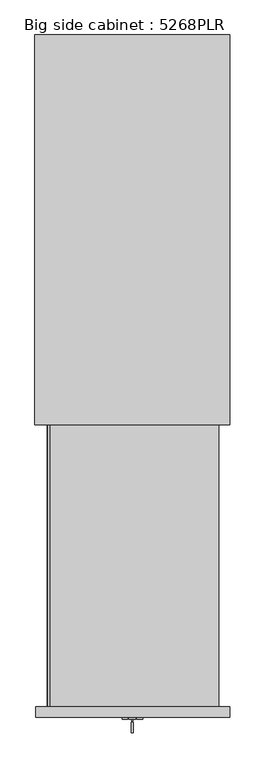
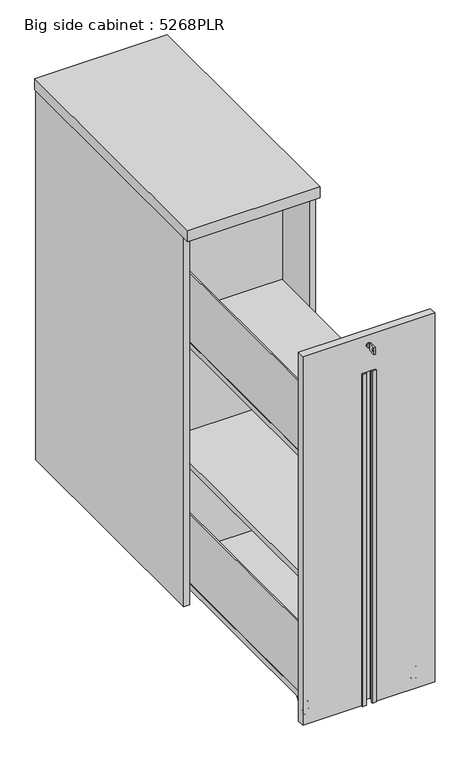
"""IFC4 building model written with IfcOpenShell, lengths in millimetres: furniture geometry, Big side cabinet : 5268PLR."""

from ifc_helpers import new_model, si_unit, point, frame, frame_2d, origin, origin_with_axes, place, context, project, spatial, polyline, circle_curve, ellipse_curve, trimmed, segment, composite_curve, outline, extrude, source, transform, mapped, element, save
from ifc_brep_helpers import plane_surface, cylinder_surface, revolved_surface, advanced_brep


def big_side_cabinet_5268plr_7d59c94c(model_context):
    return source(origin(), model_context, "Body", "SolidModel", [
        extrude(outline(polyline([(1.5783188, 20.1617145), (1.5783188, 10.1617145), (-8.4216812, 10.1617145), (-8.4216812, 20.1617145), (1.5783188, 20.1617145)])), origin_with_axes(), (0.0, 0.0, 1.0), 10.0),
        extrude(outline(polyline([(180.5000002, 798.0), (198.5, 798.0), (198.5, 22.9999769), (180.5000002, 22.9999769), (180.5000002, 798.0)])), frame((0.0, 0.0, 5.0), z_axis=(0.0, 0.0, 1.0), x_axis=(1.0, 0.0, 0.0)), (0.0, 0.0, 1.0), 1180.0),
        extrude(outline(polyline([(-180.5000002, 778.4999997), (-180.5000002, 790.9999997), (180.5000002, 790.9999997), (180.5000002, 778.4999997), (-180.5000002, 778.4999997)])), frame((0.0, 0.0, 5.0), z_axis=(0.0, 0.0, 1.0), x_axis=(1.0, 0.0, 0.0)), (0.0, 0.0, 1.0), 1180.0),
        extrude(outline(polyline([(-180.5000002, 798.0), (-180.5000002, 22.9999769), (-198.5, 22.9999769), (-198.5, 798.0), (-180.5000002, 798.0)])), frame((0.0, 0.0, 5.0), z_axis=(0.0, 0.0, 1.0), x_axis=(1.0, 0.0, 0.0)), (0.0, 0.0, 1.0), 1180.0),
        extrude(outline(polyline([(180.5000002, 70.0000151), (-180.5000002, 70.0000151), (-180.5000002, 738.5000021), (180.5000002, 738.5000021), (180.5000002, 70.0000151)])), frame((0.0, 0.0, 20.0583505), z_axis=(0.0, 0.0, 1.0), x_axis=(1.0, 0.0, 0.0)), (0.0, 0.0, 1.0), 17.9999982),
        extrude(outline(polyline([(200.0, 0.0), (-200.0, 0.0), (-200.0, 800.0), (200.0, 800.0), (200.0, 0.0)])), frame((0.0, 0.0, 1185.0), z_axis=(0.0, 0.0, 1.0), x_axis=(1.0, 0.0, 0.0)), (0.0, 0.0, 1.0), 35.0),
        extrude(outline(composite_curve([segment(trimmed(circle_curve(frame_2d((-160.5000002, 706.0000021)), 20.0), [point((-180.5000002, 706.0000021))], [point((-140.5000002, 706.0000021))], False, "CARTESIAN"), True, "CONTINUOUS"), segment(trimmed(circle_curve(frame_2d((-160.5000002, 706.0000021)), 20.0), [point((-140.5000002, 706.0000021))], [point((-180.5000002, 706.0000021))], False, "CARTESIAN"), True, "CONTINUOUS")], self_intersect=False)), origin_with_axes(), (0.0, 0.0, 1.0), 19.0539492),
        extrude(outline(composite_curve([segment(trimmed(circle_curve(frame_2d((-160.5000002, 98.9999918)), 20.0), [point((-180.5000002, 98.9999918))], [point((-140.5000002, 98.9999918))], False, "CARTESIAN"), True, "CONTINUOUS"), segment(trimmed(circle_curve(frame_2d((-160.5000002, 98.9999918)), 20.0), [point((-140.5000002, 98.9999918))], [point((-180.5000002, 98.9999918))], False, "CARTESIAN"), True, "CONTINUOUS")], self_intersect=False)), origin_with_axes(), (0.0, 0.0, 1.0), 19.0539492),
        extrude(outline(composite_curve([segment(trimmed(circle_curve(frame_2d((160.5000002, 706.0000021)), 20.0), [point((140.5000002, 706.0000021))], [point((180.5000002, 706.0000021))], False, "CARTESIAN"), True, "CONTINUOUS"), segment(trimmed(circle_curve(frame_2d((160.5000002, 706.0000021)), 20.0), [point((180.5000002, 706.0000021))], [point((140.5000002, 706.0000021))], False, "CARTESIAN"), True, "CONTINUOUS")], self_intersect=False)), origin_with_axes(), (0.0, 0.0, 1.0), 19.0539492),
        extrude(outline(composite_curve([segment(trimmed(circle_curve(frame_2d((160.5000002, 98.9999918)), 20.0), [point((140.5000002, 98.9999918))], [point((180.5000002, 98.9999918))], False, "CARTESIAN"), True, "CONTINUOUS"), segment(trimmed(circle_curve(frame_2d((160.5000002, 98.9999918)), 20.0), [point((180.5000002, 98.9999918))], [point((140.5000002, 98.9999918))], False, "CARTESIAN"), True, "CONTINUOUS")], self_intersect=False)), origin_with_axes(), (0.0, 0.0, 1.0), 19.0539492),
        advanced_brep(
        [(155.997354, -548.0000393, 10.5), (158.25, -548.0000393, 12.752646), (158.25, -548.0000393, 29.247354), (155.997354, -548.0000393, 31.5), (155.997354, -548.0000393, 3.0456405), (155.997354, -548.0000393, 38.9543595), (159.0429945, -548.0000393, 0.0), (159.0429945, -548.0000393, 42.0), (162.5, -548.0000393, 0.0), (162.5, -548.0000393, 42.0), (162.5, -548.0000393, 16.75), (162.5, -548.0000393, 25.25), (158.25, -548.0000393, 16.75), (158.25, -548.0000393, 25.25)],
        [
            (0, 1),
            (1, 2, circle_curve(frame((158.25, -548.0000393, 21.0), z_axis=(1.0, 0.0, 0.0), x_axis=(0.0, 0.0, 1.0)), 8.247354)),
            (2, 3),
            (3, 0, circle_curve(frame((155.997354, -548.0000393, 21.0), z_axis=(-1.0, 0.0, 0.0), x_axis=(0.0, 0.0, 1.0)), 10.5)),
            (2, 1, circle_curve(frame((158.25, -548.0000393, 21.0), z_axis=(1.0, 0.0, 0.0), x_axis=(0.0, 0.0, 1.0)), 8.247354)),
            (0, 3, circle_curve(frame((155.997354, -548.0000393, 21.0), z_axis=(-1.0, 0.0, 0.0), x_axis=(0.0, 0.0, 1.0)), 10.5)),
            (4, 0),
            (3, 5),
            (5, 4, circle_curve(frame((155.997354, -548.0000393, 21.0), z_axis=(-1.0, 0.0, 0.0), x_axis=(0.0, 0.0, 1.0)), 17.9543595)),
            (4, 5, circle_curve(frame((155.997354, -548.0000393, 21.0), z_axis=(-1.0, 0.0, 0.0), x_axis=(0.0, 0.0, 1.0)), 17.9543595)),
            (6, 4, circle_curve(frame((159.0429945, -548.0000393, 3.0456405), z_axis=(0.0, 1.0, 0.0), x_axis=(-1.0, 0.0, 0.0)), 3.0456405)),
            (5, 7, circle_curve(frame((159.0429945, -548.0000393, 38.9543595), z_axis=(0.0, 1.0, 0.0), x_axis=(-1.0, 0.0, 0.0)), 3.0456405)),
            (7, 6, circle_curve(frame((159.0429945, -548.0000393, 21.0), z_axis=(-1.0, 0.0, 0.0), x_axis=(0.0, 0.0, 1.0)), 21.0)),
            (6, 7, circle_curve(frame((159.0429945, -548.0000393, 21.0), z_axis=(-1.0, 0.0, 0.0), x_axis=(0.0, 0.0, 1.0)), 21.0)),
            (8, 6),
            (7, 9),
            (9, 8, circle_curve(frame((162.5, -548.0000393, 21.0), z_axis=(-1.0, 0.0, 0.0), x_axis=(0.0, 0.0, 1.0)), 21.0)),
            (8, 9, circle_curve(frame((162.5, -548.0000393, 21.0), z_axis=(-1.0, 0.0, 0.0), x_axis=(0.0, 0.0, 1.0)), 21.0)),
            (10, 8),
            (9, 11),
            (11, 10, circle_curve(frame((162.5, -548.0000393, 21.0), z_axis=(-1.0, 0.0, 0.0), x_axis=(0.0, 0.0, 1.0)), 4.25)),
            (10, 11, circle_curve(frame((162.5, -548.0000393, 21.0), z_axis=(-1.0, 0.0, 0.0), x_axis=(0.0, 0.0, 1.0)), 4.25)),
            (12, 10),
            (11, 13),
            (13, 12, circle_curve(frame((158.25, -548.0000393, 21.0), z_axis=(-1.0, 0.0, 0.0), x_axis=(0.0, 0.0, 1.0)), 4.25)),
            (12, 13, circle_curve(frame((158.25, -548.0000393, 21.0), z_axis=(-1.0, 0.0, 0.0), x_axis=(0.0, 0.0, 1.0)), 4.25)),
            (1, 12),
            (13, 2),
        ],
        [
            revolved_surface(polyline([(158.25, -548.0000393, 29.247354), (155.997354, -548.0000393, 31.5)]), (135.5019942, -548.0000393, 21.0), (1.0, 0.0, 0.0)),
            plane_surface(frame((155.997354, -548.0000393, 21.0), z_axis=(-1.0, 0.0, 0.0), x_axis=(0.0, 0.0, 1.0))),
            revolved_surface(trimmed(ellipse_curve(frame((159.0429945, -548.0000393, 38.9543595), z_axis=(0.0, 1.0, 0.0), x_axis=(-1.0, 0.0, 0.0)), 3.0456405, 3.0456405), [point((155.997354, -548.0000393, 38.9543595))], [point((159.0429945, -548.0000393, 42.0))], True, "CARTESIAN"), (135.5019942, -548.0000393, 21.0), (1.0, 0.0, 0.0)),
            cylinder_surface(frame((135.5019942, -548.0000393, 21.0), z_axis=(1.0, 0.0, 0.0), x_axis=(0.0, 0.0, 1.0)), 21.0),
            plane_surface(frame((162.5, -548.0000393, 21.0), z_axis=(1.0, 0.0, 0.0), x_axis=(0.0, 0.0, 1.0))),
            revolved_surface(polyline([(162.5, -548.0000393, 25.25), (158.25, -548.0000393, 25.25)]), (135.5019942, -548.0000393, 21.0), (1.0, 0.0, 0.0)),
            plane_surface(frame((158.25, -548.0000393, 21.0), z_axis=(-1.0, 0.0, 0.0), x_axis=(0.0, 0.0, 1.0))),
        ],
        [
            (0, [[1, 2, 3, 4]]),
            (0, [[-3, 5, -1, 6]]),
            (1, [[7, -4, 8, 9]]),
            (1, [[-8, -6, -7, 10]]),
            (2, [[11, -9, 12, 13]]),
            (2, [[-12, -10, -11, 14]]),
            (3, [[15, -13, 16, 17]]),
            (3, [[-16, -14, -15, 18]]),
            (4, [[19, -17, 20, 21]]),
            (4, [[-20, -18, -19, 22]]),
            (5, [[23, -21, 24, 25]]),
            (5, [[-24, -22, -23, 26]]),
            (6, [[27, -25, 28, -2]]),
            (6, [[-28, -26, -27, -5]]),
        ],
    ),
        advanced_brep(
        [(174.351441, -548.0000393, 25.0), (174.351441, -548.0000393, 21.0), (174.351441, -548.0000393, 17.0), (169.8769483, -548.0000393, 17.0), (169.8769483, -548.0000393, 25.0)],
        [
            (0, 1),
            (1, 2),
            (2, 0, circle_curve(frame((174.351441, -548.0000393, 21.0), z_axis=(1.0, 0.0, 0.0), x_axis=(0.0, 0.0, -1.0)), 4.0)),
            (0, 2, circle_curve(frame((174.351441, -548.0000393, 21.0), z_axis=(1.0, 0.0, 0.0), x_axis=(0.0, 0.0, -1.0)), 4.0)),
            (2, 3),
            (3, 4, circle_curve(frame((169.8769483, -548.0000393, 21.0), z_axis=(1.0, 0.0, 0.0), x_axis=(0.0, 0.0, -1.0)), 4.0)),
            (4, 0),
            (4, 3, circle_curve(frame((169.8769483, -548.0000393, 21.0), z_axis=(1.0, 0.0, 0.0), x_axis=(0.0, 0.0, -1.0)), 4.0)),
        ],
        [
            plane_surface(frame((174.351441, -548.0000393, 21.0), z_axis=(1.0, 0.0, 0.0), x_axis=(0.0, 0.0, -1.0))),
            cylinder_surface(frame((142.5, -548.0000393, 21.0), z_axis=(-1.0, 0.0, 0.0), x_axis=(0.0, 0.0, -1.0)), 4.0),
            plane_surface(frame((169.8769483, -572.0000393, 46.0), z_axis=(-1.0, 0.0, 0.0), x_axis=(0.0, 1.0, 0.0))),
        ],
        [
            (0, [[1, 2, 3]]),
            (0, [[-1, 4, -2]]),
            (1, [[5, 6, 7, -3]]),
            (1, [[-7, 8, -5, -4]]),
            (2, [[-8, -6]]),
        ],
    ),
        advanced_brep(
        [(150.5708052, -548.0000393, 25.0), (155.0, -548.0000393, 25.0), (155.0, -548.0000393, 17.0), (150.5708052, -548.0000393, 17.0), (150.5708052, -548.0000393, 21.0)],
        [
            (0, 1),
            (1, 2, circle_curve(frame((155.0, -548.0000393, 21.0), z_axis=(-1.0, 0.0, 0.0), x_axis=(0.0, 0.0, -1.0)), 4.0)),
            (2, 3),
            (3, 0, circle_curve(frame((150.5708052, -548.0000393, 21.0), z_axis=(1.0, 0.0, 0.0), x_axis=(0.0, 0.0, -1.0)), 4.0)),
            (2, 1, circle_curve(frame((155.0, -548.0000393, 21.0), z_axis=(-1.0, 0.0, 0.0), x_axis=(0.0, 0.0, -1.0)), 4.0)),
            (0, 3, circle_curve(frame((150.5708052, -548.0000393, 21.0), z_axis=(1.0, 0.0, 0.0), x_axis=(0.0, 0.0, -1.0)), 4.0)),
            (3, 4),
            (4, 0),
        ],
        [
            cylinder_surface(frame((142.5, -548.0000393, 21.0), z_axis=(-1.0, 0.0, 0.0), x_axis=(0.0, 0.0, -1.0)), 4.0),
            plane_surface(frame((150.5708052, -548.0000393, 21.0), z_axis=(-1.0, 0.0, 0.0), x_axis=(0.0, 0.0, -1.0))),
            plane_surface(frame((155.0, -572.0000393, 0.0), z_axis=(1.0, 0.0, 0.0), x_axis=(0.0, 1.0, 0.0))),
        ],
        [
            (0, [[1, 2, 3, 4]]),
            (0, [[-3, 5, -1, 6]]),
            (1, [[7, 8, -4]]),
            (1, [[-8, -7, -6]]),
            (2, [[-5, -2]]),
        ],
    ),
        advanced_brep(
        [(166.75, -548.0000393, 12.752646), (169.002646, -548.0000393, 10.5), (169.002646, -548.0000393, 31.5), (166.75, -548.0000393, 29.247354), (169.002646, -548.0000393, 3.0456405), (169.002646, -548.0000393, 38.9543595), (165.9570055, -548.0000393, 0.0), (165.9570055, -548.0000393, 42.0), (162.5, -548.0000393, 0.0), (162.5, -548.0000393, 42.0), (162.5, -548.0000393, 21.0), (166.75, -548.0000393, 21.0)],
        [
            (0, 1),
            (1, 2, circle_curve(frame((169.002646, -548.0000393, 21.0), z_axis=(1.0, 0.0, 0.0), x_axis=(0.0, 0.0, 1.0)), 10.5)),
            (2, 3),
            (3, 0, circle_curve(frame((166.75, -548.0000393, 21.0), z_axis=(-1.0, 0.0, 0.0), x_axis=(0.0, 0.0, 1.0)), 8.247354)),
            (2, 1, circle_curve(frame((169.002646, -548.0000393, 21.0), z_axis=(1.0, 0.0, 0.0), x_axis=(0.0, 0.0, 1.0)), 10.5)),
            (0, 3, circle_curve(frame((166.75, -548.0000393, 21.0), z_axis=(-1.0, 0.0, 0.0), x_axis=(0.0, 0.0, 1.0)), 8.247354)),
            (1, 4),
            (4, 5, circle_curve(frame((169.002646, -548.0000393, 21.0), z_axis=(1.0, 0.0, 0.0), x_axis=(0.0, 0.0, 1.0)), 17.9543595)),
            (5, 2),
            (5, 4, circle_curve(frame((169.002646, -548.0000393, 21.0), z_axis=(1.0, 0.0, 0.0), x_axis=(0.0, 0.0, 1.0)), 17.9543595)),
            (4, 6, circle_curve(frame((165.9570055, -548.0000393, 3.0456405), z_axis=(0.0, 1.0, 0.0), x_axis=(1.0, 0.0, 0.0)), 3.0456405)),
            (6, 7, circle_curve(frame((165.9570055, -548.0000393, 21.0), z_axis=(1.0, 0.0, 0.0), x_axis=(0.0, 0.0, 1.0)), 21.0)),
            (7, 5, circle_curve(frame((165.9570055, -548.0000393, 38.9543595), z_axis=(0.0, 1.0, 0.0), x_axis=(1.0, 0.0, 0.0)), 3.0456405)),
            (7, 6, circle_curve(frame((165.9570055, -548.0000393, 21.0), z_axis=(1.0, 0.0, 0.0), x_axis=(0.0, 0.0, 1.0)), 21.0)),
            (6, 8),
            (8, 9, circle_curve(frame((162.5, -548.0000393, 21.0), z_axis=(1.0, 0.0, 0.0), x_axis=(0.0, 0.0, 1.0)), 21.0)),
            (9, 7),
            (9, 8, circle_curve(frame((162.5, -548.0000393, 21.0), z_axis=(1.0, 0.0, 0.0), x_axis=(0.0, 0.0, 1.0)), 21.0)),
            (8, 10),
            (10, 9),
            (11, 0),
            (3, 11),
        ],
        [
            revolved_surface(polyline([(169.002646, -548.0000393, 31.5), (166.75, -548.0000393, 29.247354)]), (189.4980058, -548.0000393, 21.0), (1.0, 0.0, 0.0)),
            plane_surface(frame((169.002646, -548.0000393, 21.0), z_axis=(1.0, 0.0, 0.0), x_axis=(0.0, 0.0, 1.0))),
            revolved_surface(trimmed(ellipse_curve(frame((165.9570055, -548.0000393, 38.9543595), z_axis=(0.0, 1.0, 0.0), x_axis=(1.0, 0.0, 0.0)), 3.0456405, 3.0456405), [point((165.9570055, -548.0000393, 42.0))], [point((169.002646, -548.0000393, 38.9543595))], True, "CARTESIAN"), (189.4980058, -548.0000393, 21.0), (1.0, 0.0, 0.0)),
            cylinder_surface(frame((189.4980058, -548.0000393, 21.0), z_axis=(1.0, 0.0, 0.0), x_axis=(0.0, 0.0, 1.0)), 21.0),
            plane_surface(frame((162.5, -548.0000393, 21.0), z_axis=(-1.0, 0.0, 0.0), x_axis=(0.0, 0.0, 1.0))),
            plane_surface(frame((166.75, -548.0000393, 21.0), z_axis=(1.0, 0.0, 0.0), x_axis=(0.0, 0.0, 1.0))),
        ],
        [
            (0, [[1, 2, 3, 4]]),
            (0, [[-3, 5, -1, 6]]),
            (1, [[7, 8, 9, -2]]),
            (1, [[-9, 10, -7, -5]]),
            (2, [[11, 12, 13, -8]]),
            (2, [[-13, 14, -11, -10]]),
            (3, [[15, 16, 17, -12]]),
            (3, [[-17, 18, -15, -14]]),
            (4, [[19, 20, -16]]),
            (4, [[-20, -19, -18]]),
            (5, [[21, -4, 22]]),
            (5, [[-22, -6, -21]]),
        ],
    ),
        advanced_brep(
        [(152.5, -524.0000393, 48.0), (152.5, -524.0000393, 42.0), (152.5, -540.0000393, 21.0), (152.5, -556.0000393, 21.0), (152.5, -572.0000393, 42.0), (152.5, -572.0000393, 48.0), (172.5, -524.0000393, 48.0), (172.5, -572.0000393, 48.0), (172.5, -572.0000393, 42.0), (172.5, -556.0000393, 21.0), (172.5, -540.0000393, 21.0), (172.5, -524.0000393, 42.0), (169.8769483, -556.0000393, 21.0), (169.8769483, -540.0000393, 21.0), (155.0, -540.0000393, 21.0), (155.0, -556.0000393, 21.0), (155.0, -572.0000393, 42.0), (155.0, -572.0000393, 46.0), (169.8769483, -572.0000393, 46.0), (169.8769483, -572.0000393, 42.0), (169.8769483, -524.0000393, 42.0), (169.8769483, -524.0000393, 46.0), (155.0, -524.0000393, 46.0), (155.0, -524.0000393, 42.0)],
        [
            (0, 1),
            (1, 2),
            (2, 3, circle_curve(frame((152.5, -548.0000393, 21.0), z_axis=(-1.0, 0.0, 0.0), x_axis=(0.0, -1.0, 0.0)), 8.0)),
            (3, 4),
            (4, 5),
            (5, 0),
            (6, 7),
            (7, 8),
            (8, 9),
            (9, 10, circle_curve(frame((172.5, -548.0000393, 21.0), z_axis=(1.0, 0.0, 0.0), x_axis=(0.0, -1.0, 0.0)), 8.0)),
            (10, 11),
            (11, 6),
            (5, 7),
            (6, 0),
            (9, 12),
            (12, 13, circle_curve(frame((169.8769483, -548.0000393, 21.0), z_axis=(1.0, 0.0, 0.0), x_axis=(0.0, -1.0, 0.0)), 8.0)),
            (13, 10),
            (2, 14),
            (14, 15, circle_curve(frame((155.0, -548.0000393, 21.0), z_axis=(-1.0, 0.0, 0.0), x_axis=(0.0, -1.0, 0.0)), 8.0)),
            (15, 3),
            (4, 16),
            (16, 17),
            (17, 18),
            (18, 19),
            (19, 8),
            (11, 20),
            (20, 21),
            (21, 22),
            (22, 23),
            (23, 1),
            (17, 22),
            (21, 18),
            (16, 15),
            (14, 23),
            (20, 13),
            (12, 19),
        ],
        [
            plane_surface(frame((152.5, -572.0000393, 48.0), z_axis=(-1.0, 0.0, 0.0), x_axis=(0.0, -1.0, 0.0))),
            plane_surface(frame((172.5, -572.0000393, 48.0), z_axis=(1.0, 0.0, 0.0), x_axis=(0.0, 1.0, 0.0))),
            plane_surface(frame((152.5, -524.0000393, 48.0), z_axis=(0.0, 0.0, 1.0), x_axis=(1.0, 0.0, 0.0))),
            cylinder_surface(frame((172.5, -548.0000393, 21.0), z_axis=(-1.0, 0.0, 0.0), x_axis=(0.0, -1.0, 0.0)), 8.0),
            plane_surface(frame((152.5, -572.0000393, 48.0), z_axis=(0.0, -1.0, 0.0), x_axis=(1.0, 0.0, 0.0))),
            plane_surface(frame((152.5, -524.0000393, 42.0), z_axis=(0.0, 1.0, 0.0), x_axis=(1.0, 0.0, 0.0))),
            plane_surface(frame((155.0, -572.0000393, 46.0), z_axis=(0.0, 0.0, -1.0), x_axis=(0.0, 1.0, 0.0))),
            plane_surface(frame((155.0, -572.0000393, 0.0), z_axis=(1.0, 0.0, 0.0), x_axis=(0.0, 1.0, 0.0))),
            plane_surface(frame((169.8769483, -572.0000393, 46.0), z_axis=(-1.0, 0.0, 0.0), x_axis=(0.0, 1.0, 0.0))),
            plane_surface(frame((152.5, -572.0000393, 42.0), z_axis=(0.0, -0.7954317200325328, -0.6060432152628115), x_axis=(1.0, 0.0, 0.0))),
            plane_surface(frame((152.5, -540.0000393, 21.0), z_axis=(0.0, 0.7954317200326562, -0.6060432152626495), x_axis=(1.0, 0.0, 0.0))),
        ],
        [
            (0, [[1, 2, 3, 4, 5, 6]]),
            (1, [[7, 8, 9, 10, 11, 12]]),
            (2, [[13, -7, 14, -6]]),
            (3, [[15, 16, 17, -10]]),
            (3, [[18, 19, 20, -3]]),
            (4, [[21, 22, 23, 24, 25, -8, -13, -5]]),
            (5, [[-14, -12, 26, 27, 28, 29, 30, -1]]),
            (6, [[-23, 31, -28, 32]]),
            (7, [[-22, 33, -19, 34, -29, -31]]),
            (8, [[-27, 35, -16, 36, -24, -32]]),
            (9, [[-20, -33, -21, -4]]),
            (9, [[-25, -36, -15, -9]]),
            (10, [[-30, -34, -18, -2]]),
            (10, [[-17, -35, -26, -11]]),
        ],
    ),
        extrude(outline(polyline([(-632.0000046, 1139.014113), (-632.0000046, 1161.0), (-610.0000046, 1161.0), (-610.0000046, 1139.014113), (-632.0000046, 1139.014113)]), holes=[composite_curve([segment(trimmed(circle_curve(frame_2d((-625.7500046, 1150.0070565)), 3.2230706), [point((-625.7500046, 1153.2301271))], [point((-625.7500046, 1146.7839859))], True, "CARTESIAN"), True, "CONTINUOUS"), segment(trimmed(circle_curve(frame_2d((-625.7500046, 1150.0070565)), 3.2230706), [point((-625.7500046, 1146.7839859))], [point((-625.7500046, 1153.2301271))], True, "CARTESIAN"), True, "CONTINUOUS")], self_intersect=False)]), frame((-2.0, 0.0, 0.0), z_axis=(1.0, 0.0, 0.0), x_axis=(0.0, 1.0, 0.0)), (0.0, 0.0, 1.0), 4.0416064),
        extrude(outline(polyline([(1.0416064, -610.0000046), (-1.0, -610.0000046), (-1.0, -604.0000046), (1.0416064, -604.0000046), (1.0416064, -610.0000046)])), frame((0.0, 0.0, 1146.014113), z_axis=(0.0, 0.0, 1.0), x_axis=(1.0, 0.0, 0.0)), (0.0, 0.0, 1.0), 7.985887),
        extrude(outline(composite_curve([segment(trimmed(circle_curve(frame_2d((1150.0, 0.0)), 7.0), [point((1150.0, -7.0))], [point((1150.0, 7.0))], False, "CARTESIAN"), True, "CONTINUOUS"), segment(trimmed(circle_curve(frame_2d((1150.0, 0.0)), 7.0), [point((1150.0, 7.0))], [point((1150.0, -7.0))], False, "CARTESIAN"), True, "CONTINUOUS")], self_intersect=False)), frame((0.0, -604.0000046, 0.0), z_axis=(0.0, 1.0, 0.0), x_axis=(0.0, 0.0, 1.0)), (0.0, 0.0, 1.0), 4.0),
        extrude(outline(polyline([(1182.0, 200.0000015), (1182.0, -198.5000015), (5.0, -198.5000015), (5.0, -17.7500067), (1065.0, -17.7500067), (1065.0, 17.7500067), (5.0, 17.7500067), (5.0, 200.0000015), (1182.0, 200.0000015)])), frame((0.0, -600.0000046, 0.0), z_axis=(0.0, 1.0, 0.0), x_axis=(0.0, 0.0, 1.0)), (0.0, 0.0, 1.0), 21.9999653),
        extrude(outline(polyline([(-21.2499929, -604.2058707), (-21.2499929, -600.0000046), (-17.7500067, -600.0000046), (-17.7500067, -578.0000393), (17.7500067, -578.0000393), (17.7500067, -600.0000046), (21.2499929, -600.0000046), (21.2499929, -604.2058707), (9.2499986, -604.2058707), (9.2499986, -598.4780496), (15.9519183, -595.3528931), (15.9519183, -580.3528931), (-15.9519183, -580.3528931), (-15.9519183, -595.3528931), (-9.2499986, -598.4780496), (-9.2499986, -604.2058707), (-21.2499929, -604.2058707)])), frame((0.0, 0.0, 5.0), z_axis=(0.0, 0.0, 1.0), x_axis=(1.0, 0.0, 0.0)), (0.0, 0.0, 1.0), 1060.0),
        extrude(outline(polyline([(-169.8004833, -578.0000046), (-173.7499883, -578.0000046), (-173.7499883, 160.5000143), (-169.8004833, 160.5000143), (-169.8004833, -578.0000046)])), frame((0.0, 0.0, 836.0), z_axis=(0.0, 0.0, 1.0), x_axis=(1.0, 0.0, 0.0)), (0.0, 0.0, 1.0), 220.0),
        extrude(outline(polyline([(169.8004833, -578.0000046), (169.8004833, 160.5000143), (173.7499883, 160.5000143), (173.7499883, -578.0000046), (169.8004833, -578.0000046)])), frame((0.0, 0.0, 451.0), z_axis=(0.0, 0.0, 1.0), x_axis=(1.0, 0.0, 0.0)), (0.0, 0.0, 1.0), 220.0),
        extrude(outline(polyline([(-169.8004833, -578.0000046), (-173.7499883, -578.0000046), (-173.7499883, 160.5000143), (-169.8004833, 160.5000143), (-169.8004833, -578.0000046)])), frame((0.0, 0.0, 66.0), z_axis=(0.0, 0.0, 1.0), x_axis=(1.0, 0.0, 0.0)), (0.0, 0.0, 1.0), 220.0),
        advanced_brep(
        [(-155.997354, -548.0000393, 10.5), (-155.997354, -548.0000393, 31.5), (-158.25, -548.0000393, 29.247354), (-158.25, -548.0000393, 12.752646), (-155.997354, -548.0000393, 3.0456405), (-155.997354, -548.0000393, 38.9543595), (-159.0429945, -548.0000393, 0.0), (-159.0429945, -548.0000393, 42.0), (-162.5, -548.0000393, 0.0), (-162.5, -548.0000393, 42.0), (-162.5, -548.0000393, 16.75), (-162.5, -548.0000393, 25.25), (-158.25, -548.0000393, 16.75), (-158.25, -548.0000393, 25.25)],
        [
            (0, 1, circle_curve(frame((-155.997354, -548.0000393, 21.0), z_axis=(1.0, 0.0, 0.0), x_axis=(0.0, 0.0, 1.0)), 10.5)),
            (1, 2),
            (2, 3, circle_curve(frame((-158.25, -548.0000393, 21.0), z_axis=(-1.0, 0.0, 0.0), x_axis=(0.0, 0.0, 1.0)), 8.247354)),
            (3, 0),
            (1, 0, circle_curve(frame((-155.997354, -548.0000393, 21.0), z_axis=(1.0, 0.0, 0.0), x_axis=(0.0, 0.0, 1.0)), 10.5)),
            (3, 2, circle_curve(frame((-158.25, -548.0000393, 21.0), z_axis=(-1.0, 0.0, 0.0), x_axis=(0.0, 0.0, 1.0)), 8.247354)),
            (4, 5, circle_curve(frame((-155.997354, -548.0000393, 21.0), z_axis=(1.0, 0.0, 0.0), x_axis=(0.0, 0.0, 1.0)), 17.9543595)),
            (5, 1),
            (0, 4),
            (5, 4, circle_curve(frame((-155.997354, -548.0000393, 21.0), z_axis=(1.0, 0.0, 0.0), x_axis=(0.0, 0.0, 1.0)), 17.9543595)),
            (6, 7, circle_curve(frame((-159.0429945, -548.0000393, 21.0), z_axis=(1.0, 0.0, 0.0), x_axis=(0.0, 0.0, 1.0)), 21.0)),
            (7, 5, circle_curve(frame((-159.0429945, -548.0000393, 38.9543595), z_axis=(0.0, 1.0, 0.0), x_axis=(1.0, 0.0, 0.0)), 3.0456405)),
            (4, 6, circle_curve(frame((-159.0429945, -548.0000393, 3.0456405), z_axis=(0.0, 1.0, 0.0), x_axis=(1.0, 0.0, 0.0)), 3.0456405)),
            (7, 6, circle_curve(frame((-159.0429945, -548.0000393, 21.0), z_axis=(1.0, 0.0, 0.0), x_axis=(0.0, 0.0, 1.0)), 21.0)),
            (8, 9, circle_curve(frame((-162.5, -548.0000393, 21.0), z_axis=(1.0, 0.0, 0.0), x_axis=(0.0, 0.0, 1.0)), 21.0)),
            (9, 7),
            (6, 8),
            (9, 8, circle_curve(frame((-162.5, -548.0000393, 21.0), z_axis=(1.0, 0.0, 0.0), x_axis=(0.0, 0.0, 1.0)), 21.0)),
            (10, 11, circle_curve(frame((-162.5, -548.0000393, 21.0), z_axis=(1.0, 0.0, 0.0), x_axis=(0.0, 0.0, 1.0)), 4.25)),
            (11, 9),
            (8, 10),
            (11, 10, circle_curve(frame((-162.5, -548.0000393, 21.0), z_axis=(1.0, 0.0, 0.0), x_axis=(0.0, 0.0, 1.0)), 4.25)),
            (12, 13, circle_curve(frame((-158.25, -548.0000393, 21.0), z_axis=(1.0, 0.0, 0.0), x_axis=(0.0, 0.0, 1.0)), 4.25)),
            (13, 11),
            (10, 12),
            (13, 12, circle_curve(frame((-158.25, -548.0000393, 21.0), z_axis=(1.0, 0.0, 0.0), x_axis=(0.0, 0.0, 1.0)), 4.25)),
            (2, 13),
            (12, 3),
        ],
        [
            revolved_surface(polyline([(-158.25, -548.0000393, 29.247354), (-155.997354, -548.0000393, 31.5)]), (-135.5019942, -548.0000393, 21.0), (-1.0, 0.0, 0.0)),
            plane_surface(frame((-155.997354, -548.0000393, 21.0), z_axis=(1.0, 0.0, 0.0), x_axis=(0.0, 0.0, 1.0))),
            revolved_surface(trimmed(ellipse_curve(frame((-159.0429945, -548.0000393, 38.9543595), z_axis=(0.0, -1.0, 0.0), x_axis=(1.0, 0.0, 0.0)), 3.0456405, 3.0456405), [point((-155.997354, -548.0000393, 38.9543595))], [point((-159.0429945, -548.0000393, 42.0))], True, "CARTESIAN"), (-135.5019942, -548.0000393, 21.0), (-1.0, 0.0, 0.0)),
            cylinder_surface(frame((-135.5019942, -548.0000393, 21.0), z_axis=(-1.0, 0.0, 0.0), x_axis=(0.0, 0.0, 1.0)), 21.0),
            plane_surface(frame((-162.5, -548.0000393, 21.0), z_axis=(-1.0, 0.0, 0.0), x_axis=(0.0, 0.0, 1.0))),
            revolved_surface(polyline([(-162.5, -548.0000393, 25.25), (-158.25, -548.0000393, 25.25)]), (-135.5019942, -548.0000393, 21.0), (-1.0, 0.0, 0.0)),
            plane_surface(frame((-158.25, -548.0000393, 21.0), z_axis=(1.0, 0.0, 0.0), x_axis=(0.0, 0.0, 1.0))),
        ],
        [
            (0, [[1, 2, 3, 4]]),
            (0, [[5, -4, 6, -2]]),
            (1, [[7, 8, -1, 9]]),
            (1, [[10, -9, -5, -8]]),
            (2, [[11, 12, -7, 13]]),
            (2, [[14, -13, -10, -12]]),
            (3, [[15, 16, -11, 17]]),
            (3, [[18, -17, -14, -16]]),
            (4, [[19, 20, -15, 21]]),
            (4, [[22, -21, -18, -20]]),
            (5, [[23, 24, -19, 25]]),
            (5, [[26, -25, -22, -24]]),
            (6, [[-3, 27, -23, 28]]),
            (6, [[-6, -28, -26, -27]]),
        ],
    ),
        advanced_brep(
        [(-174.351441, -548.0000393, 25.0), (-174.351441, -548.0000393, 17.0), (-174.351441, -548.0000393, 21.0), (-169.8769483, -548.0000393, 25.0), (-169.8769483, -548.0000393, 17.0)],
        [
            (0, 1, circle_curve(frame((-174.351441, -548.0000393, 21.0), z_axis=(-1.0, 0.0, 0.0), x_axis=(0.0, 0.0, -1.0)), 4.0)),
            (1, 2),
            (2, 0),
            (1, 0, circle_curve(frame((-174.351441, -548.0000393, 21.0), z_axis=(-1.0, 0.0, 0.0), x_axis=(0.0, 0.0, -1.0)), 4.0)),
            (0, 3),
            (3, 4, circle_curve(frame((-169.8769483, -548.0000393, 21.0), z_axis=(-1.0, 0.0, 0.0), x_axis=(0.0, 0.0, -1.0)), 4.0)),
            (4, 1),
            (4, 3, circle_curve(frame((-169.8769483, -548.0000393, 21.0), z_axis=(-1.0, 0.0, 0.0), x_axis=(0.0, 0.0, -1.0)), 4.0)),
        ],
        [
            plane_surface(frame((-174.351441, -548.0000393, 21.0), z_axis=(-1.0, 0.0, 0.0), x_axis=(0.0, 0.0, -1.0))),
            cylinder_surface(frame((-142.5, -548.0000393, 21.0), z_axis=(1.0, 0.0, 0.0), x_axis=(0.0, 0.0, -1.0)), 4.0),
            plane_surface(frame((-169.8769483, -572.0000393, 46.0), z_axis=(1.0, 0.0, 0.0), x_axis=(0.0, 1.0, 0.0))),
        ],
        [
            (0, [[1, 2, 3]]),
            (0, [[-2, 4, -3]]),
            (1, [[-1, 5, 6, 7]]),
            (1, [[-4, -7, 8, -5]]),
            (2, [[-6, -8]]),
        ],
    ),
        advanced_brep(
        [(-150.5708052, -548.0000393, 25.0), (-150.5708052, -548.0000393, 17.0), (-155.0, -548.0000393, 17.0), (-155.0, -548.0000393, 25.0), (-150.5708052, -548.0000393, 21.0)],
        [
            (0, 1, circle_curve(frame((-150.5708052, -548.0000393, 21.0), z_axis=(-1.0, 0.0, 0.0), x_axis=(0.0, 0.0, -1.0)), 4.0)),
            (1, 2),
            (2, 3, circle_curve(frame((-155.0, -548.0000393, 21.0), z_axis=(1.0, 0.0, 0.0), x_axis=(0.0, 0.0, -1.0)), 4.0)),
            (3, 0),
            (1, 0, circle_curve(frame((-150.5708052, -548.0000393, 21.0), z_axis=(-1.0, 0.0, 0.0), x_axis=(0.0, 0.0, -1.0)), 4.0)),
            (3, 2, circle_curve(frame((-155.0, -548.0000393, 21.0), z_axis=(1.0, 0.0, 0.0), x_axis=(0.0, 0.0, -1.0)), 4.0)),
            (0, 4),
            (4, 1),
        ],
        [
            cylinder_surface(frame((-142.5, -548.0000393, 21.0), z_axis=(1.0, 0.0, 0.0), x_axis=(0.0, 0.0, -1.0)), 4.0),
            plane_surface(frame((-150.5708052, -548.0000393, 21.0), z_axis=(1.0, 0.0, 0.0), x_axis=(0.0, 0.0, -1.0))),
            plane_surface(frame((-155.0, -572.0000393, 0.0), z_axis=(-1.0, 0.0, 0.0), x_axis=(0.0, 1.0, 0.0))),
        ],
        [
            (0, [[1, 2, 3, 4]]),
            (0, [[5, -4, 6, -2]]),
            (1, [[-1, 7, 8]]),
            (1, [[-5, -8, -7]]),
            (2, [[-3, -6]]),
        ],
    ),
        advanced_brep(
        [(-166.75, -548.0000393, 12.752646), (-166.75, -548.0000393, 29.247354), (-169.002646, -548.0000393, 31.5), (-169.002646, -548.0000393, 10.5), (-169.002646, -548.0000393, 38.9543595), (-169.002646, -548.0000393, 3.0456405), (-165.9570055, -548.0000393, 42.0), (-165.9570055, -548.0000393, 0.0), (-162.5, -548.0000393, 42.0), (-162.5, -548.0000393, 0.0), (-162.5, -548.0000393, 21.0), (-166.75, -548.0000393, 21.0)],
        [
            (0, 1, circle_curve(frame((-166.75, -548.0000393, 21.0), z_axis=(1.0, 0.0, 0.0), x_axis=(0.0, 0.0, 1.0)), 8.247354)),
            (1, 2),
            (2, 3, circle_curve(frame((-169.002646, -548.0000393, 21.0), z_axis=(-1.0, 0.0, 0.0), x_axis=(0.0, 0.0, 1.0)), 10.5)),
            (3, 0),
            (1, 0, circle_curve(frame((-166.75, -548.0000393, 21.0), z_axis=(1.0, 0.0, 0.0), x_axis=(0.0, 0.0, 1.0)), 8.247354)),
            (3, 2, circle_curve(frame((-169.002646, -548.0000393, 21.0), z_axis=(-1.0, 0.0, 0.0), x_axis=(0.0, 0.0, 1.0)), 10.5)),
            (2, 4),
            (4, 5, circle_curve(frame((-169.002646, -548.0000393, 21.0), z_axis=(-1.0, 0.0, 0.0), x_axis=(0.0, 0.0, 1.0)), 17.9543595)),
            (5, 3),
            (5, 4, circle_curve(frame((-169.002646, -548.0000393, 21.0), z_axis=(-1.0, 0.0, 0.0), x_axis=(0.0, 0.0, 1.0)), 17.9543595)),
            (4, 6, circle_curve(frame((-165.9570055, -548.0000393, 38.9543595), z_axis=(0.0, 1.0, 0.0), x_axis=(-1.0, 0.0, 0.0)), 3.0456405)),
            (6, 7, circle_curve(frame((-165.9570055, -548.0000393, 21.0), z_axis=(-1.0, 0.0, 0.0), x_axis=(0.0, 0.0, 1.0)), 21.0)),
            (7, 5, circle_curve(frame((-165.9570055, -548.0000393, 3.0456405), z_axis=(0.0, 1.0, 0.0), x_axis=(-1.0, 0.0, 0.0)), 3.0456405)),
            (7, 6, circle_curve(frame((-165.9570055, -548.0000393, 21.0), z_axis=(-1.0, 0.0, 0.0), x_axis=(0.0, 0.0, 1.0)), 21.0)),
            (6, 8),
            (8, 9, circle_curve(frame((-162.5, -548.0000393, 21.0), z_axis=(-1.0, 0.0, 0.0), x_axis=(0.0, 0.0, 1.0)), 21.0)),
            (9, 7),
            (9, 8, circle_curve(frame((-162.5, -548.0000393, 21.0), z_axis=(-1.0, 0.0, 0.0), x_axis=(0.0, 0.0, 1.0)), 21.0)),
            (8, 10),
            (10, 9),
            (11, 1),
            (0, 11),
        ],
        [
            revolved_surface(polyline([(-169.002646, -548.0000393, 31.5), (-166.75, -548.0000393, 29.247354)]), (-189.4980058, -548.0000393, 21.0), (-1.0, 0.0, 0.0)),
            plane_surface(frame((-169.002646, -548.0000393, 21.0), z_axis=(-1.0, 0.0, 0.0), x_axis=(0.0, 0.0, 1.0))),
            revolved_surface(trimmed(ellipse_curve(frame((-165.9570055, -548.0000393, 38.9543595), z_axis=(0.0, -1.0, 0.0), x_axis=(-1.0, 0.0, 0.0)), 3.0456405, 3.0456405), [point((-165.9570055, -548.0000393, 42.0))], [point((-169.002646, -548.0000393, 38.9543595))], True, "CARTESIAN"), (-189.4980058, -548.0000393, 21.0), (-1.0, 0.0, 0.0)),
            cylinder_surface(frame((-189.4980058, -548.0000393, 21.0), z_axis=(-1.0, 0.0, 0.0), x_axis=(0.0, 0.0, 1.0)), 21.0),
            plane_surface(frame((-162.5, -548.0000393, 21.0), z_axis=(1.0, 0.0, 0.0), x_axis=(0.0, 0.0, 1.0))),
            plane_surface(frame((-166.75, -548.0000393, 21.0), z_axis=(-1.0, 0.0, 0.0), x_axis=(0.0, 0.0, 1.0))),
        ],
        [
            (0, [[1, 2, 3, 4]]),
            (0, [[5, -4, 6, -2]]),
            (1, [[-3, 7, 8, 9]]),
            (1, [[-6, -9, 10, -7]]),
            (2, [[-8, 11, 12, 13]]),
            (2, [[-10, -13, 14, -11]]),
            (3, [[-12, 15, 16, 17]]),
            (3, [[-14, -17, 18, -15]]),
            (4, [[-16, 19, 20]]),
            (4, [[-18, -20, -19]]),
            (5, [[21, -1, 22]]),
            (5, [[-22, -5, -21]]),
        ],
    ),
        advanced_brep(
        [(-152.5, -524.0000393, 48.0), (-152.5, -572.0000393, 48.0), (-152.5, -572.0000393, 42.0), (-152.5, -556.0000393, 21.0), (-152.5, -540.0000393, 21.0), (-152.5, -524.0000393, 42.0), (-172.5, -524.0000393, 48.0), (-172.5, -524.0000393, 42.0), (-172.5, -540.0000393, 21.0), (-172.5, -556.0000393, 21.0), (-172.5, -572.0000393, 42.0), (-172.5, -572.0000393, 48.0), (-155.0, -556.0000393, 21.0), (-155.0, -540.0000393, 21.0), (-169.8769483, -540.0000393, 21.0), (-169.8769483, -556.0000393, 21.0), (-169.8769483, -572.0000393, 42.0), (-169.8769483, -572.0000393, 46.0), (-155.0, -572.0000393, 46.0), (-155.0, -572.0000393, 42.0), (-155.0, -524.0000393, 42.0), (-155.0, -524.0000393, 46.0), (-169.8769483, -524.0000393, 46.0), (-169.8769483, -524.0000393, 42.0)],
        [
            (0, 1),
            (1, 2),
            (2, 3),
            (3, 4, circle_curve(frame((-152.5, -548.0000393, 21.0), z_axis=(1.0, 0.0, 0.0), x_axis=(0.0, -1.0, 0.0)), 8.0)),
            (4, 5),
            (5, 0),
            (6, 7),
            (7, 8),
            (8, 9, circle_curve(frame((-172.5, -548.0000393, 21.0), z_axis=(-1.0, 0.0, 0.0), x_axis=(0.0, -1.0, 0.0)), 8.0)),
            (9, 10),
            (10, 11),
            (11, 6),
            (0, 6),
            (11, 1),
            (3, 12),
            (12, 13, circle_curve(frame((-155.0, -548.0000393, 21.0), z_axis=(1.0, 0.0, 0.0), x_axis=(0.0, -1.0, 0.0)), 8.0)),
            (13, 4),
            (8, 14),
            (14, 15, circle_curve(frame((-169.8769483, -548.0000393, 21.0), z_axis=(-1.0, 0.0, 0.0), x_axis=(0.0, -1.0, 0.0)), 8.0)),
            (15, 9),
            (10, 16),
            (16, 17),
            (17, 18),
            (18, 19),
            (19, 2),
            (5, 20),
            (20, 21),
            (21, 22),
            (22, 23),
            (23, 7),
            (17, 22),
            (21, 18),
            (20, 13),
            (12, 19),
            (16, 15),
            (14, 23),
        ],
        [
            plane_surface(frame((-152.5, -572.0000393, 48.0), z_axis=(1.0, 0.0, 0.0), x_axis=(0.0, -1.0, 0.0))),
            plane_surface(frame((-172.5, -572.0000393, 48.0), z_axis=(-1.0, 0.0, 0.0), x_axis=(0.0, 1.0, 0.0))),
            plane_surface(frame((-152.5, -524.0000393, 48.0), z_axis=(0.0, 0.0, 1.0), x_axis=(-1.0, 0.0, 0.0))),
            cylinder_surface(frame((-172.5, -548.0000393, 21.0), z_axis=(1.0, 0.0, 0.0), x_axis=(0.0, -1.0, 0.0)), 8.0),
            plane_surface(frame((-152.5, -572.0000393, 48.0), z_axis=(0.0, -1.0, 0.0), x_axis=(-1.0, 0.0, 0.0))),
            plane_surface(frame((-152.5, -524.0000393, 42.0), z_axis=(0.0, 1.0, 0.0), x_axis=(-1.0, 0.0, 0.0))),
            plane_surface(frame((-155.0, -572.0000393, 46.0), z_axis=(0.0, 0.0, -1.0), x_axis=(0.0, 1.0, 0.0))),
            plane_surface(frame((-155.0, -572.0000393, 0.0), z_axis=(-1.0, 0.0, 0.0), x_axis=(0.0, 1.0, 0.0))),
            plane_surface(frame((-169.8769483, -572.0000393, 46.0), z_axis=(1.0, 0.0, 0.0), x_axis=(0.0, 1.0, 0.0))),
            plane_surface(frame((-152.5, -572.0000393, 42.0), z_axis=(0.0, -0.7954317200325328, -0.6060432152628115), x_axis=(-1.0, 0.0, 0.0))),
            plane_surface(frame((-152.5, -540.0000393, 21.0), z_axis=(0.0, 0.7954317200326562, -0.6060432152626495), x_axis=(-1.0, 0.0, 0.0))),
        ],
        [
            (0, [[1, 2, 3, 4, 5, 6]]),
            (1, [[7, 8, 9, 10, 11, 12]]),
            (2, [[-1, 13, -12, 14]]),
            (3, [[-4, 15, 16, 17]]),
            (3, [[-9, 18, 19, 20]]),
            (4, [[-2, -14, -11, 21, 22, 23, 24, 25]]),
            (5, [[-6, 26, 27, 28, 29, 30, -7, -13]]),
            (6, [[31, -28, 32, -23]]),
            (7, [[-32, -27, 33, -16, 34, -24]]),
            (8, [[-31, -22, 35, -19, 36, -29]]),
            (9, [[-3, -25, -34, -15]]),
            (9, [[-10, -20, -35, -21]]),
            (10, [[-5, -17, -33, -26]]),
            (10, [[-8, -30, -36, -18]]),
        ],
    ),
        extrude(outline(polyline([(178.9999867, 160.5000143), (-177.0096218, 160.5000143), (-177.0096218, 178.5000057), (178.9999867, 178.5000057), (178.9999867, 160.5000143)])), frame((0.0, 0.0, 48.0), z_axis=(0.0, 0.0, 1.0), x_axis=(1.0, 0.0, 0.0)), (0.0, 0.0, 1.0), 1017.0),
        extrude(outline(polyline([(-175.0096218, 160.5000143), (176.9999867, 160.5000143), (176.9999867, -578.0000046), (-175.0096218, -578.0000046), (-175.0096218, 160.5000143)])), frame((0.0, 0.0, 818.0), z_axis=(0.0, 0.0, 1.0), x_axis=(1.0, 0.0, 0.0)), (0.0, 0.0, 1.0), 18.0),
        extrude(outline(polyline([(-175.0096218, 160.5000143), (176.9999867, 160.5000143), (176.9999867, -578.0000046), (-175.0096218, -578.0000046), (-175.0096218, 160.5000143)])), frame((0.0, 0.0, 433.0), z_axis=(0.0, 0.0, 1.0), x_axis=(1.0, 0.0, 0.0)), (0.0, 0.0, 1.0), 18.0),
        extrude(outline(polyline([(-175.0096218, 160.5000143), (176.9999867, 160.5000143), (176.9999867, -578.0000046), (-175.0096218, -578.0000046), (-175.0096218, 160.5000143)])), frame((0.0, 0.0, 48.0), z_axis=(0.0, 0.0, 1.0), x_axis=(1.0, 0.0, 0.0)), (0.0, 0.0, 1.0), 18.0),
    ])


if __name__ == "__main__":
    model = new_model("IFC4")
    model_context = context("Model", 3, world=origin())
    ifc_project = project(units=[si_unit("LENGTHUNIT", "METRE", prefix="MILLI")], contexts=[model_context])
    site = spatial("IfcSite", under=ifc_project)
    building = spatial("IfcBuilding", under=site)
    placement = place(None, origin())
    big_side_cabinet_5268plr_shape = big_side_cabinet_5268plr_7d59c94c(model_context)
    element("IfcFurniture", 1, ObjectType="Big side cabinet : 5268PLR", at=placement, inside=building, context=model_context, shape_type="MappedRepresentation", body=[
        mapped(big_side_cabinet_5268plr_shape, transform((0.0, 0.0, 0.0), x_axis=(1.0, 0.0, 0.0), y_axis=(0.0, 1.0, 0.0), z_axis=(0.0, 0.0, 1.0))),
    ])
    save(model, "model.ifc")
